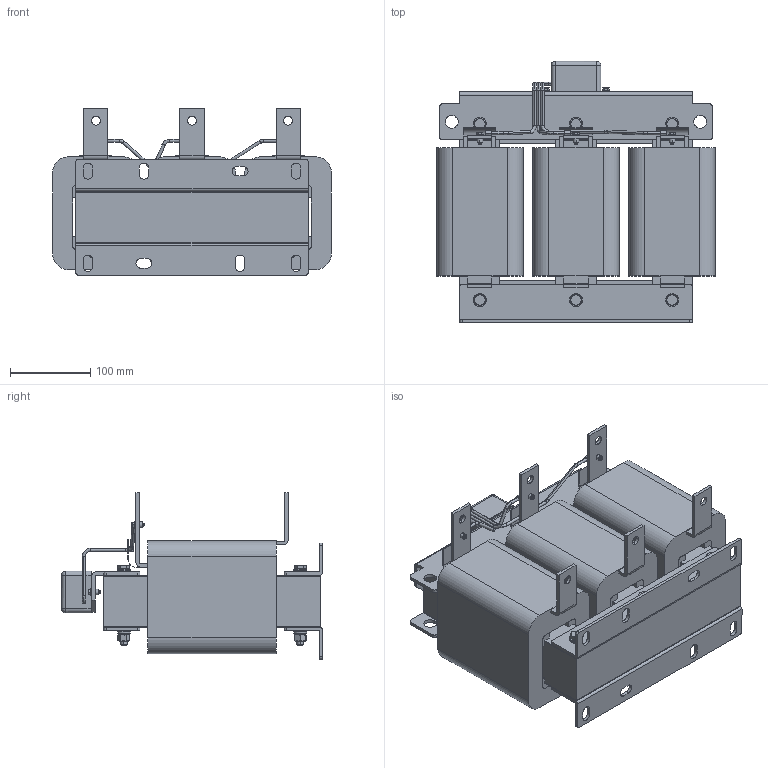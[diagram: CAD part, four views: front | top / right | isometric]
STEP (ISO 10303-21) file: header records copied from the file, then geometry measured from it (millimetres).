
FILE_DESCRIPTION (( 'STEP AP203' ), '1' );
FILE_NAME ('婰錪襝 dU_dT _ IDUDT-160_208-6.STEP', '2026-05-06T13:57:29', ( '' ), ( '' ), 'SwSTEP 2.0', 'SolidWorks 2021', '' );
FILE_SCHEMA (( 'CONFIG_CONTROL_DESIGN' ));
Length unit declared in the file: millimetre
Products named in the file (38): 狟標璃-SKS-1007.405-LJ-A0; DVT-线圈-160kW_4; DVT-线圈-160kW_8; M4℅12坋趼鞠褒芛蹟邡; DVT-线圈-160kW_10; 鞠褒蹟邡M8℅95; DVT-线圈-160kW_7; 奻標璃-SKS-1007.404-LJ-A1; 电容引线-160kW; DVT-线圈-160kW_6; W26.5¡ÁH22¡ÁT12; 电容引线-160kW_1; plain washers--product grade c gb_GB_FASTENER_WASHER_SMWC 8; DVT-线圈-160kW_12; DVT-线圈-160kW_1; DVT-线圈-160kW_9; ﾇｰﾉﾏｼﾐｼ340｡ﾁ60｡ﾁ50; RNB1.25-4; 电容盒-SKS-0901.601-LJ-A2; 0.25橈埽祧-40; DVT-线圈-160kW_14; spring lock washers--normal type gb_GB_FASTENER_WASHER_SW 8; M4す菜; hexagon nuts grade c gb_GB_FASTENER_NUT_SNC1 M8-N; 三相铁芯290-50×63-270; DVT-线圈-160kW; DVT-线圈-160kW_2; 嶺啣沭50-270; 婰錪襝 dU_dT _ IDUDT-160_208-6; DVT-线圈-160kW_5; 电容引线-160kW_2; DVT-外出线排30×4-65; DVT-线圈-160kW_13; DVT-线圈-160kW_11; DVT-内出线排30×4-160kW; DVT-线圈-160kW_3
Assembly tree (99 placements, depth 3):
  婰錪襝 dU_dT _ IDUDT-160_208-6
    三相铁芯290-50×63-270
    ﾇｰﾉﾏｼﾐｼ340｡ﾁ60｡ﾁ50
    奻標璃-SKS-1007.404-LJ-A1
    狟標璃-SKS-1007.405-LJ-A0  x2
    嶺啣沭50-270  x6
    plain washers--product grade c gb_GB_FASTENER_WASHER_SMWC 8  x24
    spring lock washers--normal type gb_GB_FASTENER_WASHER_SW 8  x6
    hexagon nuts grade c gb_GB_FASTENER_NUT_SNC1 M8-N  x6
    鞠褒蹟邡M8℅95  x6
    电容盒-SKS-0901.601-LJ-A2
    M4す菜  x5
    M4℅12坋趼鞠褒芛蹟邡  x5
    DVT-线圈-160kW
      DVT-线圈-160kW_6
      DVT-线圈-160kW_11
      DVT-线圈-160kW
      DVT-线圈-160kW_13
      DVT-线圈-160kW_1
      DVT-线圈-160kW_2
      DVT-线圈-160kW_5
      DVT-线圈-160kW_12
      DVT-线圈-160kW_10
      DVT-线圈-160kW_14
      DVT-线圈-160kW_9
      DVT-线圈-160kW_8
      DVT-线圈-160kW_4
      DVT-线圈-160kW_7
      DVT-线圈-160kW_3
    DVT-外出线排30×4-65  x3
    DVT-内出线排30×4-160kW  x3
    RNB1.25-4  x3
    电容引线-160kW
      电容引线-160kW
      电容引线-160kW_2
      电容引线-160kW_1
    0.25橈埽祧-40  x3
    W26.5¡ÁH22¡ÁT12  x3
Bounding box: 348 x 326 x 208 mm (x, y, z)
Volume: 9238868.2 mm3; surface area: 1255801.9 mm2
Topology: 97 solids, 97 shells, 2167 faces, 5510 edges, 3606 vertices
Faces by surface type: plane 1176, cylinder 494, bspline 362, cone 130, sphere 5
Entity records: 37307 total; most frequent: CARTESIAN_POINT 10638, ORIENTED_EDGE 4414, DIRECTION 4149, EDGE_CURVE 2207, VERTEX_POINT 1447, LINE 1417, VECTOR 1417, AXIS2_PLACEMENT_3D 1366
